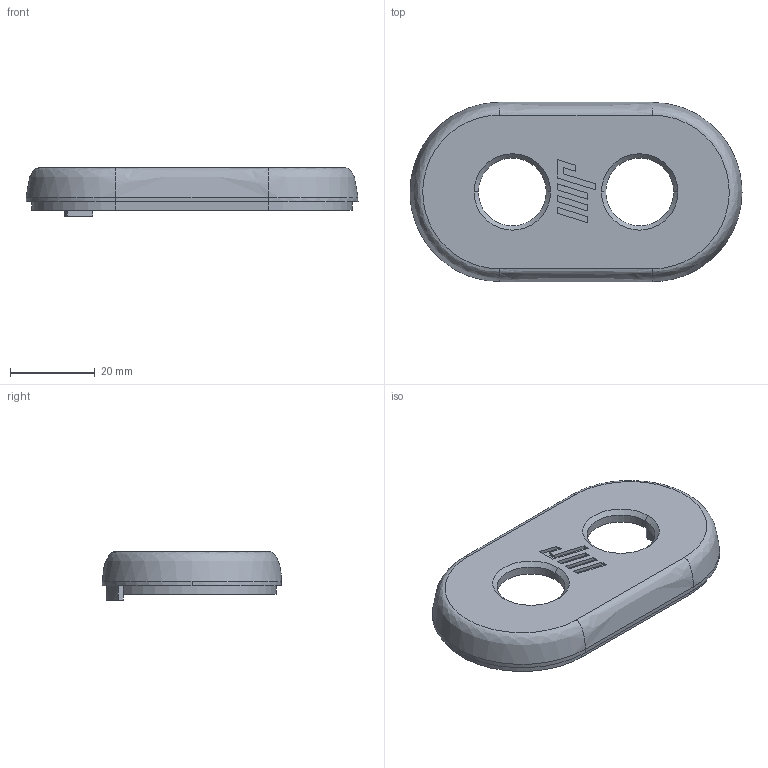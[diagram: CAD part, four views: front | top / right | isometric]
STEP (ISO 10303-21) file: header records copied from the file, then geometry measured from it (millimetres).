
FILE_DESCRIPTION (( 'STEP AP214' ), '1' );
FILE_NAME ('Case_PartB.STEP', '2025-02-14T20:39:14', ( '' ), ( '' ), 'SwSTEP 2.0', 'SolidWorks 2019', '' );
FILE_SCHEMA (( 'AUTOMOTIVE_DESIGN' ));
Length unit declared in the file: millimetre
Products named in the file (1): Case_PartB
Bounding box: 78.2 x 42.2 x 11.4 mm (x, y, z)
Volume: 10589.8 mm3; surface area: 8608.1 mm2
Topology: 1 solids, 1 shells, 159 faces, 386 edges, 244 vertices
Faces by surface type: cylinder 66, plane 63, torus 22, cone 4, bspline 4
Entity records: 4972 total; most frequent: CARTESIAN_POINT 1125, DIRECTION 836, ORIENTED_EDGE 772, EDGE_CURVE 386, AXIS2_PLACEMENT_3D 317, VERTEX_POINT 244, VECTOR 202, LINE 202
